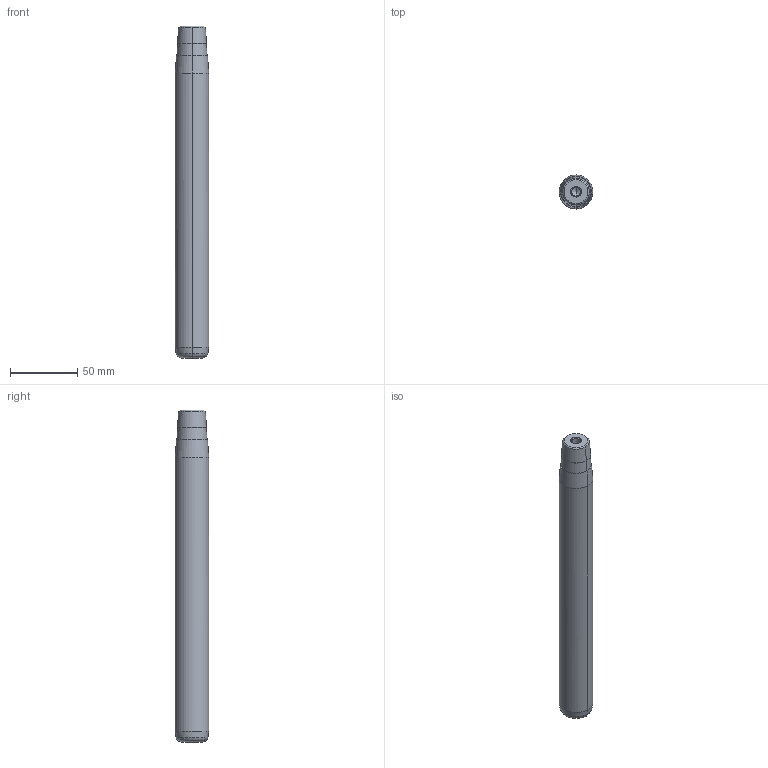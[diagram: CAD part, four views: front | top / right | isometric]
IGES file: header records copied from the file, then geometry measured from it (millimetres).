
Start section: START RECORD GO HERE.
Global section: file name: 722-25x224x247.igs; native system: DASSAULT SYSTEMES CATIA V5 R20 - www.3ds.com; preprocessor: CATIA Version 5 Release 20 ; author: Utente; organization: NB04-ASUS; date: 20210109.090245; units: millimetre
Bounding box: 25 x 25 x 247 mm (x, y, z)
Surface area: 20785.9 mm2 (no closed solid volume)
Topology: 0 solids, 0 shells, 32 faces, 192 edges, 188 vertices
Faces by surface type: revolution 30, plane 2
